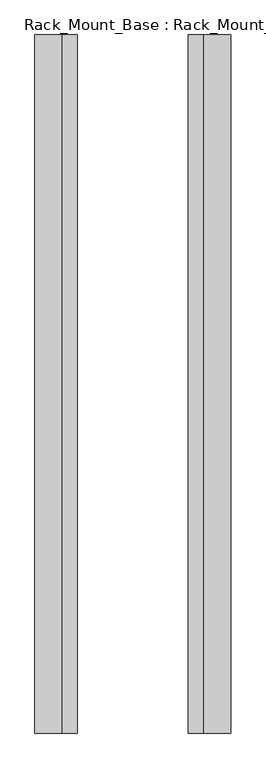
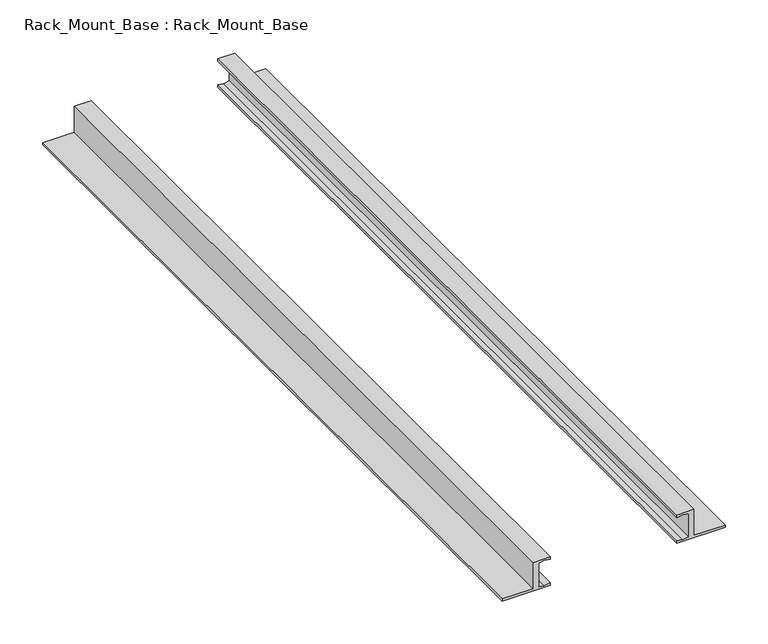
"""IFC4 building model written with IfcOpenShell, lengths in millimetres: proxy geometry, Rack_Mount_Base : Rack_Mount_Base."""

from ifc_helpers import new_model, si_unit, frame, origin, place, context, project, spatial, polyline, outline, extrude, source, transform, mapped, element, save


def rack_mount_base_rack_mount_base_1a063dba(model_context):
    return source(origin(), model_context, "Body", "SweptSolid", [
        extrude(outline(polyline([(0.0, 0.0), (0.0, 65.0), (3.53644, 65.0), (2.0364404, 57.0000005), (3.5364397, 48.9999982), (36.4977283, 48.9999982), (37.9977287, 57.0000005), (36.4977283, 64.9999982), (39.9999999, 64.9999982), (39.9999999, 41.9999985), (2.9999995, 41.9999985), (2.9999995, 0.0), (0.0, 0.0)])), frame((0.0, -1070.0, 0.0), z_axis=(0.0, 1.0, 0.0), x_axis=(0.0, 0.0, 1.0)), (0.0, 0.0, 1.0), 1070.0),
        extrude(outline(polyline([(0.0, 300.0), (2.9999995, 300.0), (2.9999995, 258.0000015), (39.9999999, 258.0000015), (39.9999999, 235.0000018), (36.4977283, 235.0000018), (37.9977287, 242.9999995), (36.4977283, 251.0000018), (3.5364397, 251.0000018), (2.0364404, 242.9999995), (3.53644, 235.0), (0.0, 235.0), (0.0, 300.0)])), frame((0.0, -1070.0, 0.0), z_axis=(0.0, 1.0, 0.0), x_axis=(0.0, 0.0, 1.0)), (0.0, 0.0, 1.0), 1070.0),
    ])


if __name__ == "__main__":
    model = new_model("IFC4")
    model_context = context("Model", 3, world=origin())
    ifc_project = project(units=[si_unit("LENGTHUNIT", "METRE", prefix="MILLI")], contexts=[model_context])
    site = spatial("IfcSite", under=ifc_project)
    building = spatial("IfcBuilding", under=site)
    placement = place(None, origin())
    rack_mount_base_rack_mount_base_shape = rack_mount_base_rack_mount_base_1a063dba(model_context)
    element("IfcBuildingElementProxy", 1, Name="Rack_Mount_Base : Rack_Mount_Base", ObjectType="Rack_Mount_Base : Rack_Mount_Base", at=placement, inside=building, context=model_context, shape_type="MappedRepresentation", body=[
        mapped(rack_mount_base_rack_mount_base_shape, transform((0.0, 0.0, 0.0), x_axis=(1.0, 0.0, 0.0), y_axis=(0.0, 1.0, 0.0), z_axis=(0.0, 0.0, 1.0))),
    ])
    save(model, "model.ifc")
